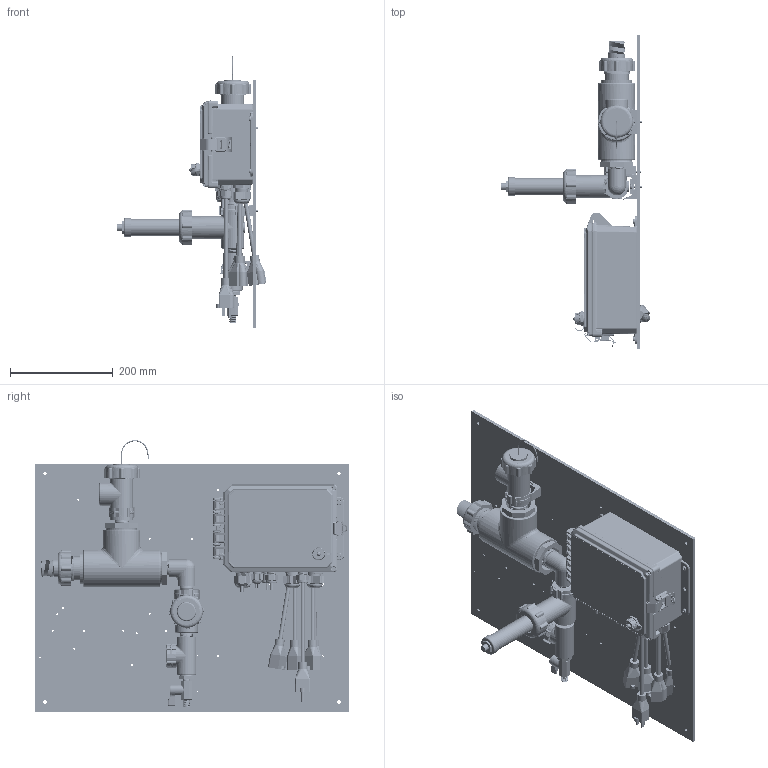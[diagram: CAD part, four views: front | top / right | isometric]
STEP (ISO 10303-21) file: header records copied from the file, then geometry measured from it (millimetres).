
FILE_DESCRIPTION (( 'STEP AP203' ), '1' );
FILE_NAME ('W600-CT-HD.STEP', '2018-03-09T17:50:51', ( '' ), ( '' ), 'SwSTEP 2.0', 'SolidWorks 2016', '' );
FILE_SCHEMA (( 'CONFIG_CONTROL_DESIGN' ));
Length unit declared in the file: inch
Products named in the file (73): Nut for M20; IMS0006; IMC0004; IMS0012; W600 Shell; IMS0027_98273A320; ISA0026; 103938; IMS0023_30075T212; 103832; IMC0002; 9912575-82-10_90631A007; 103946; IMS0019_30075T211; 103809; PCG-11 nut; IMS0043; IMC0006; ISA0018_3 Wire; 9912562-82-10; 103867; 191619-01; IMS0013; ISA0017; IMC0011; ISA0016; 9912571-82-10_95345A043; 102906; 103803; 103025; IMC0001; ISA0037; IMC0003; 102907; 1032_375H_insert; 102903_102903; 103807; IMS0002; IMR0003; ISA0014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
Assembly tree (109 placements, depth 4):
  W600-CT-HD
    ISA0023
      IMS0013
      IMS0012
    IMS0002
    IMS0003_4880K345
    IMS0011_4882K14  x4
    IMC0004
    IMS0020
    IMS0044
    IMS0043  x2
    IMC0013
    IMC0001  x3
    IMC0002
    ISA0026
      IMC0003
      IMS0010
      IMS0006
      ISA0025
        IMC0006
        IMS0029  x2
    ISA0037
      IMC0011
      IMC0012
    IMS0033
    IMS0005
    IMS0006  x2
    IMR0003
    W600 Shell
      ISA0011
        191576-INTERGRA
        1032_375H_insert  x2
        9912562-82-10
        9912571-82-10_95345A043  x2
        9912575-82-10_90631A007  x2
        102444
        9912576-82-10  x2
      191577-INTEGRA
      191584
      ISA0018_3 Wire  x2
        102907
        102903_102903
        102906
        103860_Cord1
        103861_without letter
      ISA0017
        103938
        103859_Cord1
        PCG-11 nut
      ISA0020
        102907
        103025  x6
        103004
        102903_102903
      ISA0019_Plug  x2
        103938
        102407
        PCG-11 nut
      ISA0021
        103946
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Bounding box: 289.71 x 609.6 x 528.11 mm (x, y, z)
Volume: 4267242.3 mm3; surface area: 1824065.7 mm2
Topology: 119 solids, 131 shells, 15548 faces, 40293 edges, 25250 vertices
Faces by surface type: plane 8020, cylinder 3801, bspline 2397, cone 995, torus 255, sphere 80
Entity records: 591884 total; most frequent: CARTESIAN_POINT 297937, ORIENTED_EDGE 64929, DIRECTION 50948, EDGE_CURVE 32480, VERTEX_POINT 20450, VECTOR 19240, LINE 19240, AXIS2_PLACEMENT_3D 15854
